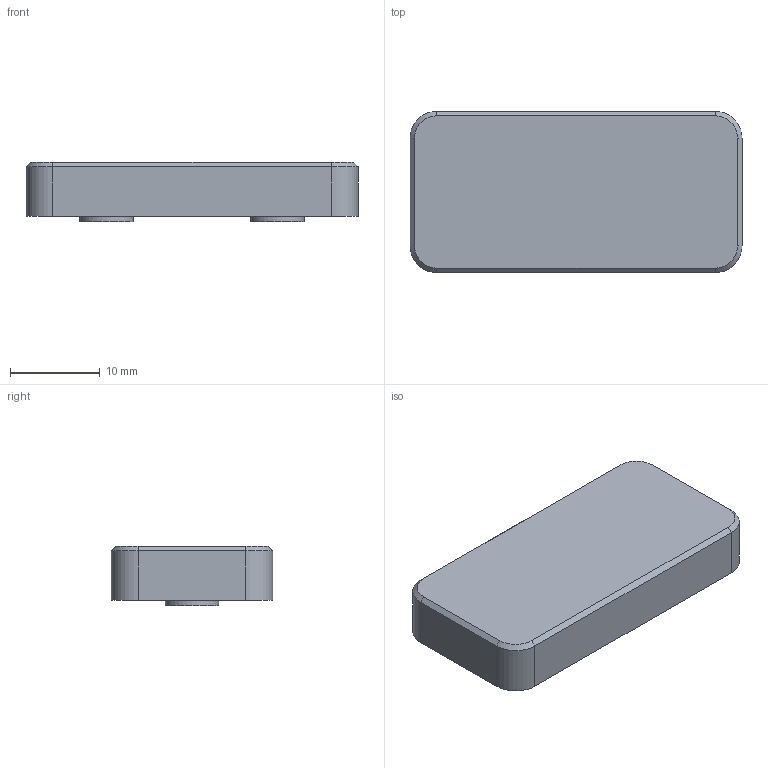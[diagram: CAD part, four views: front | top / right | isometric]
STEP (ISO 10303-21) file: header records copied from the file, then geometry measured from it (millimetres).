
FILE_DESCRIPTION(('Open CASCADE Model'),'2;1');
FILE_NAME('Open CASCADE Shape Model','2026-09-13T11:40:35',('Author'),( 'Open CASCADE'),'Open CASCADE STEP processor 7.9','Open CASCADE 7.9' ,'Unknown');
FILE_SCHEMA(('AUTOMOTIVE_DESIGN { 1 0 10303 214 1 1 1 1 }'));
Length unit declared in the file: millimetre
Products named in the file (1): Open CASCADE STEP translator 7.9 9
Bounding box: 37.05 x 18 x 6.6 mm (x, y, z)
Volume: 1969.3 mm3; surface area: 2633.4 mm2
Topology: 1 solids, 1 shells, 57 faces, 142 edges, 92 vertices
Faces by surface type: plane 43, cylinder 10, cone 4
Full cylindrical faces by diameter (mm): 6 x2
Entity records: 3474 total; most frequent: CARTESIAN_POINT 724, DIRECTION 468, LINE 294, VECTOR 294, ORIENTED_EDGE 284, PCURVE 284, DEFINITIONAL_REPRESENTATION 284, EDGE_CURVE 142
